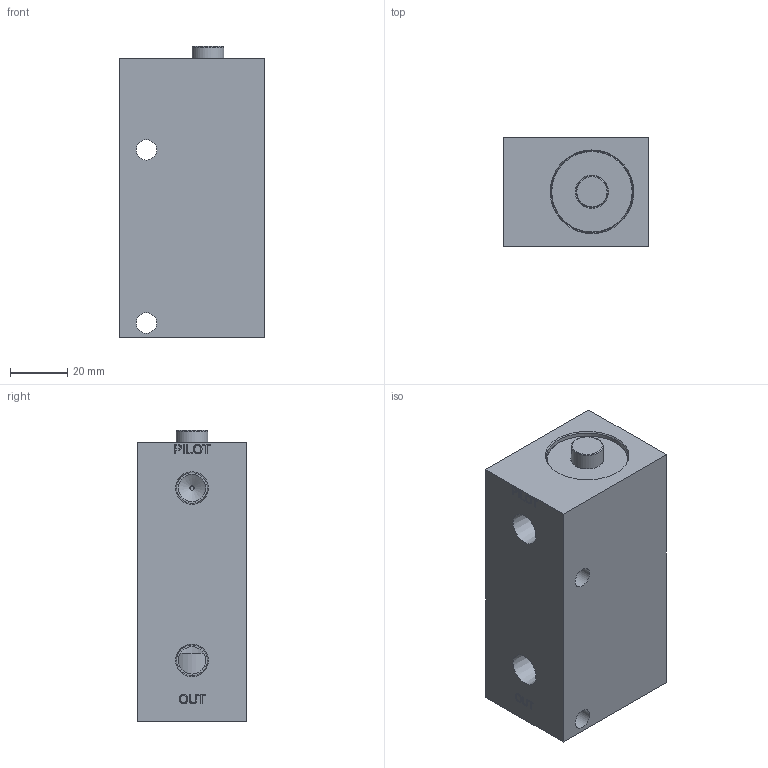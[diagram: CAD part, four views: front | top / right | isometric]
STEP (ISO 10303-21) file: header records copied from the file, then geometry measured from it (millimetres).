
FILE_DESCRIPTION(/* description */ (''),/* implementation_level */ '2;1');
FILE_NAME(/* name */ 'L:\ALADCO\Advertising\3D Content\Valves\Step Files - 2014-11-19 thru Present\30250X.stp',/* time_stamp */ '2014-11-19T13:42:18-06:00',/* author */ ('dmatz'),/* organization */ ('Aladdin Eng. & Manf. Inc.'),/* preprocessor_version */ 'ST-DEVELOPER v15.2',/* originating_system */ 'Autodesk Inventor 2014',/* authorisation */ '0 in^3');
FILE_SCHEMA (('AUTOMOTIVE_DESIGN { 1 0 10303 214 3 1 1 }'));
Length unit declared in the file: inch
Products named in the file (6): 311039; 301076; 311015; 311021; 301015; 302501
Bounding box: 50.8 x 38.1 x 101.45 mm (x, y, z)
Volume: 155807.1 mm3; surface area: 38515.7 mm2
Topology: 5 solids, 5 shells, 198 faces, 445 edges, 291 vertices
Faces by surface type: plane 104, cylinder 34, bspline 26, cone 21, torus 13
Full cylindrical faces by diameter (mm): 1.499 x1, 3.175 x1, 5.156 x1, 6.35 x2, 6.629 x1, 7.112 x2, 9.144 x1, 9.525 x3, 10.719 x3, 11.049 x2, 11.1 x1, 12.7 x1, 13.081 x1, 13.462 x1, 15.081 x1, 17.577 x1, 22.149 x1, 24.409 x1, 24.435 x1, 25.4 x2, 28.524 x4, 28.575 x2
Entity records: 5747 total; most frequent: CARTESIAN_POINT 1475, DIRECTION 764, ORIENTED_EDGE 716, EDGE_CURVE 358, EDGE_LOOP 316, AXIS2_PLACEMENT_3D 282, VERTEX_POINT 272, LINE 200
